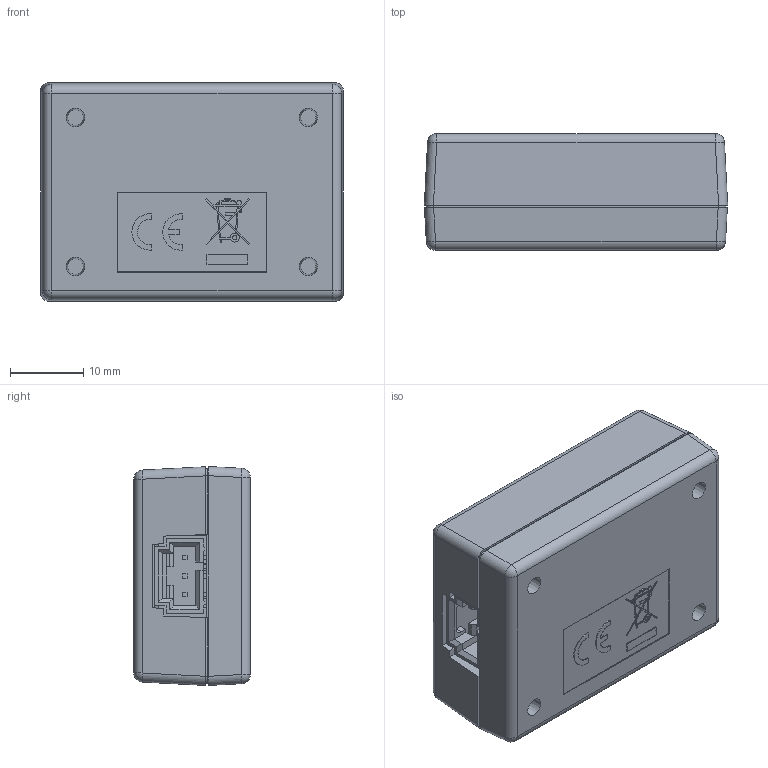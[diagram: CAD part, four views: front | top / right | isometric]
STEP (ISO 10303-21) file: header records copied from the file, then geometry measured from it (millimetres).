
FILE_DESCRIPTION(/* description */ ('Alibre Inc.'),/* implementation_level */ '2;1');
FILE_NAME(/* name */ 'export0',/* time_stamp */ '2018-08-09T09:47:00-06:00',/* author */ (''),/* organization */ (''),/* preprocessor_version */ 'ST-DEVELOPER v17',/* originating_system */ 'Alibre',/* authorisation */ '');
FILE_SCHEMA (('CONFIG_CONTROL_DESIGN'));
Length unit declared in the file: centimetre
Products named in the file (111): ID_1; ID_2; ID_3; ID_4; ID_5; ID_6; ID_7; ID_8; ID_9; ID_10; ID_11; ID_12; ID_13; ID_14; ID_15; ID_16; ID_17; ID_18; ID_19; ID_20; ID_21; ID_22; ID_23; ID_24; ID_25; ID_26; ID_27; ID_28; ID_29; ID_30
Bounding box: 41.36 x 15.86 x 29.84 mm (x, y, z)
Volume: 9967.6 mm3; surface area: 14009.2 mm2
Topology: 133 solids, 133 shells, 2280 faces, 5738 edges, 3704 vertices
Faces by surface type: plane 1672, cylinder 483, bspline 81, cone 20, revolution 16, sphere 8
Full cylindrical faces by diameter (mm): 0.6 x3, 0.965 x3, 1.321 x4, 3.124 x4, 3.175 x4
Entity records: 52034 total; most frequent: CARTESIAN_POINT 9981, ORIENTED_EDGE 6262, DIRECTION 5260, EDGE_CURVE 3131, VECTOR 2386, LINE 2386, VERTEX_POINT 2055, AXIS2_PLACEMENT_3D 1843
